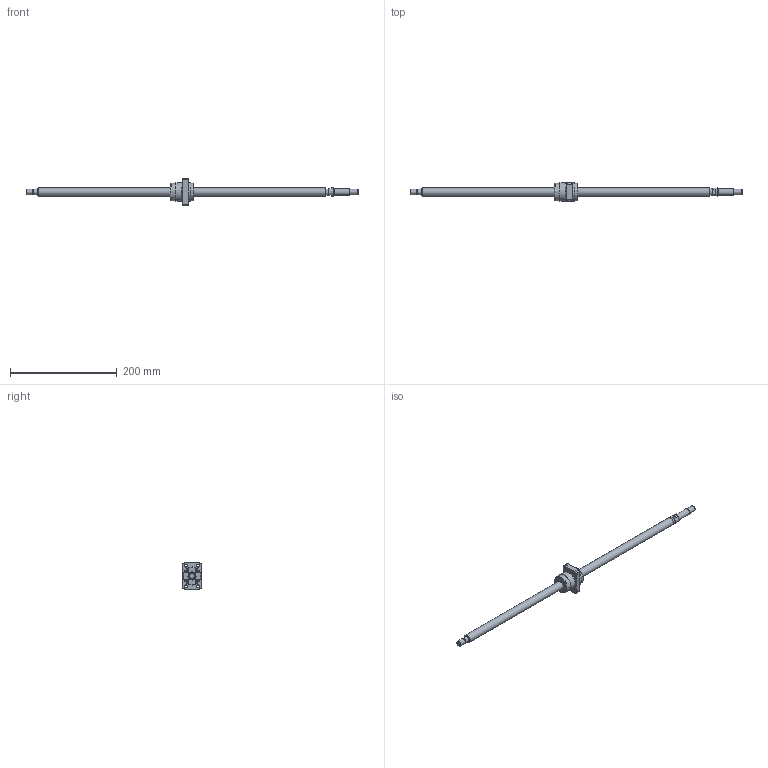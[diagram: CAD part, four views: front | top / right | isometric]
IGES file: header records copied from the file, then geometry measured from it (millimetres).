
Start section: Data from Parasolid IGES Translator 26.0.171, Copyright(c) 2006 Siemens PLM Software. All Rights Reserved.
Global section: file name: BNK1510-5.6G0+621LC5Y(291.50).igs; native system: By Siemens PLM Incorporated; preprocessor: XPlus GENERIC/IGES 26.0.171; author: Noname; organization: Noname; date: 20240709.092306; units: millimetre
Bounding box: 621 x 34 x 50 mm (x, y, z)
Surface area: 40552.6 mm2 (no closed solid volume)
Topology: 0 solids, 0 shells, 140 faces, 657 edges, 601 vertices
Faces by surface type: extrusion 76, revolution 64
